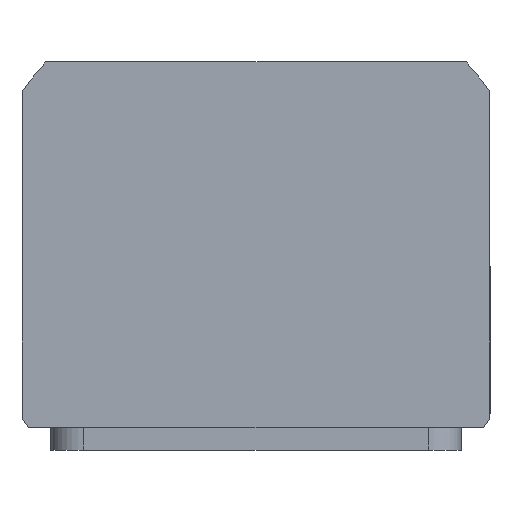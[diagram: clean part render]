
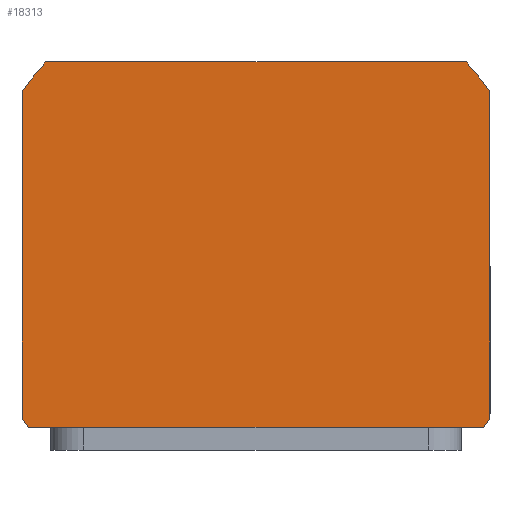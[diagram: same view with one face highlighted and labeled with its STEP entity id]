
A CAD part, top view. The second image highlights one B-rep face of the part: STEP entity #18313.
In plain terms, the highlighted planar face has unit normal (0, 0, 1) as drawn and (0, 0, -1) by its records, which use the part's own axes.
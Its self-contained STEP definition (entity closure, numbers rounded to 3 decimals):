
#332 = CARTESIAN_POINT ( 'NONE',  ( -55.382, 44.5, 0. ) ) ;
#357 = VERTEX_POINT ( 'NONE', #12500 ) ;
#544 = ORIENTED_EDGE ( 'NONE', *, *, #711, .F. ) ;
#711 = EDGE_CURVE ( 'NONE', #14262, #15471, #16181, .T. ) ;
#1025 = VERTEX_POINT ( 'NONE', #4673 ) ;
#1133 = ORIENTED_EDGE ( 'NONE', *, *, #5295, .F. ) ;
#1154 = CARTESIAN_POINT ( 'NONE',  ( 57., 44.5, 0. ) ) ;
#1188 = DIRECTION ( 'NONE',  ( 1., 0., 0. ) ) ;
#1506 = EDGE_CURVE ( 'NONE', #3307, #17755, #16199, .T. ) ;
#2110 = CARTESIAN_POINT ( 'NONE',  ( 0., 2.51, 0. ) ) ;
#2192 = CARTESIAN_POINT ( 'NONE',  ( 57., -37.255, 0. ) ) ;
#2199 = DIRECTION ( 'NONE',  ( 0., 0., 1. ) ) ;
#2548 = CIRCLE ( 'NONE', #5599, 69.5 ) ;
#3307 = VERTEX_POINT ( 'NONE', #332 ) ;
#3518 = DIRECTION ( 'NONE',  ( 1., 0., 0. ) ) ;
#3634 = ORIENTED_EDGE ( 'NONE', *, *, #16728, .F. ) ;
#4240 = ORIENTED_EDGE ( 'NONE', *, *, #11738, .F. ) ;
#4673 = CARTESIAN_POINT ( 'NONE',  ( 57., 42.275, 0. ) ) ;
#4923 = VECTOR ( 'NONE', #1188, 1000. ) ;
#5270 = EDGE_CURVE ( 'NONE', #357, #3307, #9345, .T. ) ;
#5295 = EDGE_CURVE ( 'NONE', #17755, #17613, #11786, .T. ) ;
#5300 = AXIS2_PLACEMENT_3D ( 'NONE', #16677, #8237, #18107 ) ;
#5588 = ORIENTED_EDGE ( 'NONE', *, *, #5270, .F. ) ;
#5599 = AXIS2_PLACEMENT_3D ( 'NONE', #2110, #11964, #3518 ) ;
#6120 = CARTESIAN_POINT ( 'NONE',  ( -57., -37.255, 0. ) ) ;
#6197 = DIRECTION ( 'NONE',  ( -1., 0., 0. ) ) ;
#6491 = ORIENTED_EDGE ( 'NONE', *, *, #16404, .F. ) ;
#6496 = CARTESIAN_POINT ( 'NONE',  ( -51.189, -44.5, 0. ) ) ;
#6839 = DIRECTION ( 'NONE',  ( 0., 1., 0. ) ) ;
#7351 = EDGE_CURVE ( 'NONE', #1025, #357, #2548, .T. ) ;
#7671 = DIRECTION ( 'NONE',  ( 0., 0., 1. ) ) ;
#7685 = CARTESIAN_POINT ( 'NONE',  ( -57., 44.5, 0. ) ) ;
#8237 = DIRECTION ( 'NONE',  ( 0., 0., 1. ) ) ;
#8389 = PLANE ( 'NONE',  #13012 ) ;
#9171 = AXIS2_PLACEMENT_3D ( 'NONE', #16105, #7671, #17528 ) ;
#9345 = LINE ( 'NONE', #16057, #16812 ) ;
#9877 = DIRECTION ( 'NONE',  ( 1., 0., 0. ) ) ;
#9944 = CARTESIAN_POINT ( 'NONE',  ( -57., -44.5, 0. ) ) ;
#10645 = CARTESIAN_POINT ( 'NONE',  ( 0., 2.51, 0. ) ) ;
#10903 = LINE ( 'NONE', #1154, #17953 ) ;
#11299 = FACE_OUTER_BOUND ( 'NONE', #16339, .T. ) ;
#11738 = EDGE_CURVE ( 'NONE', #15471, #12706, #15770, .T. ) ;
#11786 = LINE ( 'NONE', #7685, #15488 ) ;
#11964 = DIRECTION ( 'NONE',  ( 0., 0., 1. ) ) ;
#12051 = DIRECTION ( 'NONE',  ( 1., 0., 0. ) ) ;
#12228 = CIRCLE ( 'NONE', #16671, 69.5 ) ;
#12477 = CARTESIAN_POINT ( 'NONE',  ( 51.189, -44.5, 0. ) ) ;
#12500 = CARTESIAN_POINT ( 'NONE',  ( 55.382, 44.5, 0. ) ) ;
#12706 = VERTEX_POINT ( 'NONE', #2192 ) ;
#13012 = AXIS2_PLACEMENT_3D ( 'NONE', #16884, #18317, #9877 ) ;
#13547 = ORIENTED_EDGE ( 'NONE', *, *, #1506, .F. ) ;
#13889 = ORIENTED_EDGE ( 'NONE', *, *, #7351, .F. ) ;
#14262 = VERTEX_POINT ( 'NONE', #6496 ) ;
#15471 = VERTEX_POINT ( 'NONE', #12477 ) ;
#15488 = VECTOR ( 'NONE', #17540, 1000. ) ;
#15770 = CIRCLE ( 'NONE', #5300, 69.5 ) ;
#16057 = CARTESIAN_POINT ( 'NONE',  ( -57., 44.5, 0. ) ) ;
#16105 = CARTESIAN_POINT ( 'NONE',  ( 0., 2.51, 0. ) ) ;
#16181 = LINE ( 'NONE', #9944, #4923 ) ;
#16199 = CIRCLE ( 'NONE', #9171, 69.5 ) ;
#16339 = EDGE_LOOP ( 'NONE', ( #13889, #3634, #4240, #544, #6491, #1133, #13547, #5588 ) ) ;
#16404 = EDGE_CURVE ( 'NONE', #17613, #14262, #12228, .T. ) ;
#16671 = AXIS2_PLACEMENT_3D ( 'NONE', #10645, #2199, #12051 ) ;
#16677 = CARTESIAN_POINT ( 'NONE',  ( 0., 2.51, 0. ) ) ;
#16728 = EDGE_CURVE ( 'NONE', #12706, #1025, #10903, .T. ) ;
#16812 = VECTOR ( 'NONE', #6197, 1000. ) ;
#16884 = CARTESIAN_POINT ( 'NONE',  ( 0., 0., 0. ) ) ;
#17528 = DIRECTION ( 'NONE',  ( 1., 0., 0. ) ) ;
#17540 = DIRECTION ( 'NONE',  ( 0., -1., 0. ) ) ;
#17613 = VERTEX_POINT ( 'NONE', #6120 ) ;
#17694 = CARTESIAN_POINT ( 'NONE',  ( -57., 42.275, 0. ) ) ;
#17755 = VERTEX_POINT ( 'NONE', #17694 ) ;
#17953 = VECTOR ( 'NONE', #6839, 1000. ) ;
#18107 = DIRECTION ( 'NONE',  ( 1., 0., 0. ) ) ;
#18313 = ADVANCED_FACE ( 'NONE', ( #11299 ), #8389, .F. ) ;
#18317 = DIRECTION ( 'NONE',  ( 0., 0., 1. ) ) ;
